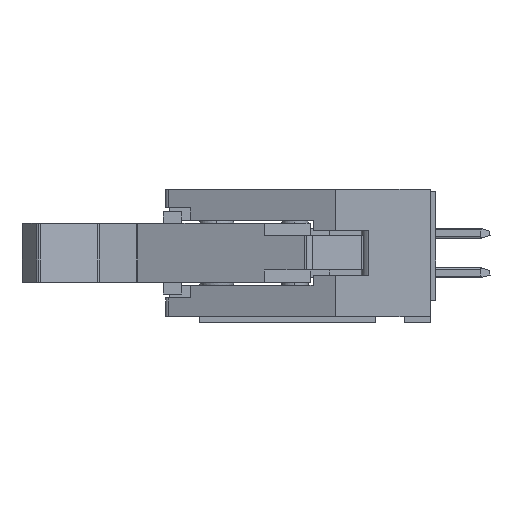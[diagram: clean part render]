
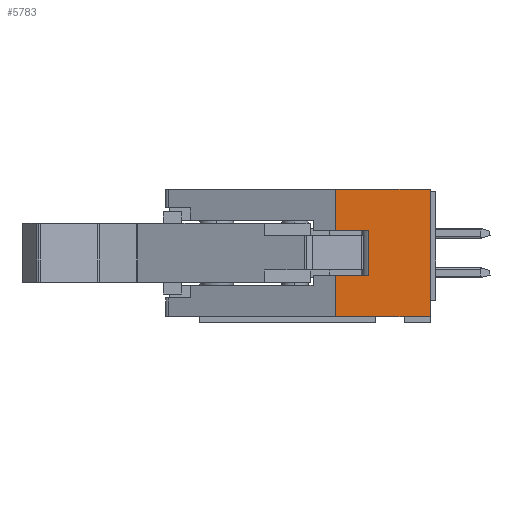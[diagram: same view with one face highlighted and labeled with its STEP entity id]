
A CAD part, left-side view. The second image highlights one B-rep face of the part: STEP entity #5783.
In plain terms, the highlighted planar face has unit normal (-1, 0, 0).
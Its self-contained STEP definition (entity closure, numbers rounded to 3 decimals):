
#913 = VECTOR ( 'NONE', #2409, 1000. ) ;
#987 = VECTOR ( 'NONE', #2710, 1000. ) ;
#1952 = VECTOR ( 'NONE', #17534, 1000. ) ;
#2404 = LINE ( 'NONE', #2407, #913 ) ;
#2407 = CARTESIAN_POINT ( 'NONE',  ( -23.72, -9.26, 0.2 ) ) ;
#2409 = DIRECTION ( 'NONE',  ( 0., 0., 1. ) ) ;
#2708 = LINE ( 'NONE', #2709, #987 ) ;
#2709 = CARTESIAN_POINT ( 'NONE',  ( -23.72, -12.31, 1.625 ) ) ;
#2710 = DIRECTION ( 'NONE',  ( 0., 1., 0. ) ) ;
#3384 = ORIENTED_EDGE ( 'NONE', *, *, #46035, .F. ) ;
#3385 = ORIENTED_EDGE ( 'NONE', *, *, #22553, .F. ) ;
#3386 = ORIENTED_EDGE ( 'NONE', *, *, #22554, .F. ) ;
#3387 = ORIENTED_EDGE ( 'NONE', *, *, #22450, .F. ) ;
#3389 = ORIENTED_EDGE ( 'NONE', *, *, #45330, .F. ) ;
#3391 = ORIENTED_EDGE ( 'NONE', *, *, #45374, .F. ) ;
#3393 = ORIENTED_EDGE ( 'NONE', *, *, #6606, .F. ) ;
#3395 = ORIENTED_EDGE ( 'NONE', *, *, #6676, .F. ) ;
#5783 = ADVANCED_FACE ( 'NONE', ( #36753 ), #36738, .F. ) ;
#6606 = EDGE_CURVE ( 'NONE', #46378, #46369, #27893, .T. ) ;
#6676 = EDGE_CURVE ( 'NONE', #41581, #46378, #6823, .T. ) ;
#6819 = CARTESIAN_POINT ( 'NONE',  ( -23.72, -12.31, -1.225 ) ) ;
#6823 = LINE ( 'NONE', #6819, #23709 ) ;
#6827 = DIRECTION ( 'NONE',  ( 0., -1., 0. ) ) ;
#17532 = LINE ( 'NONE', #17533, #1952 ) ;
#17533 = CARTESIAN_POINT ( 'NONE',  ( -23.72, -9.26, 0.2 ) ) ;
#17534 = DIRECTION ( 'NONE',  ( 0., 0., 1. ) ) ;
#17782 = CARTESIAN_POINT ( 'NONE',  ( -23.72, -11.41, 1.625 ) ) ;
#17791 = CARTESIAN_POINT ( 'NONE',  ( -23.72, -11.41, -1.225 ) ) ;
#18986 = CARTESIAN_POINT ( 'NONE',  ( -23.72, -15.36, 4.3 ) ) ;
#19102 = CARTESIAN_POINT ( 'NONE',  ( -23.72, -9.26, -1.225 ) ) ;
#19122 = CARTESIAN_POINT ( 'NONE',  ( -23.72, -9.26, 4.3 ) ) ;
#19163 = CARTESIAN_POINT ( 'NONE',  ( -23.72, -15.36, -3.9 ) ) ;
#19348 = CARTESIAN_POINT ( 'NONE',  ( -23.72, -9.26, -3.9 ) ) ;
#19404 = CARTESIAN_POINT ( 'NONE',  ( -23.72, -9.26, 1.625 ) ) ;
#22450 = EDGE_CURVE ( 'NONE', #41601, #41447, #40325, .T. ) ;
#22553 = EDGE_CURVE ( 'NONE', #41649, #41814, #40712, .T. ) ;
#22554 = EDGE_CURVE ( 'NONE', #41447, #41649, #40722, .T. ) ;
#23477 = VECTOR ( 'NONE', #27915, 1000. ) ;
#23709 = VECTOR ( 'NONE', #6827, 1000. ) ;
#24782 = VECTOR ( 'NONE', #40327, 1000. ) ;
#25099 = VECTOR ( 'NONE', #40721, 1000. ) ;
#25101 = VECTOR ( 'NONE', #40724, 1000. ) ;
#27893 = LINE ( 'NONE', #27911, #23477 ) ;
#27911 = CARTESIAN_POINT ( 'NONE',  ( -23.72, -11.41, 0.2 ) ) ;
#27915 = DIRECTION ( 'NONE',  ( 0., 0., 1. ) ) ;
#36738 = PLANE ( 'NONE',  #44947 ) ;
#36753 = FACE_OUTER_BOUND ( 'NONE', #46317, .T. ) ;
#36763 = CARTESIAN_POINT ( 'NONE',  ( -23.72, -15.36, -3.9 ) ) ;
#36764 = DIRECTION ( 'NONE',  ( 1., 0., 0. ) ) ;
#36765 = DIRECTION ( 'NONE',  ( 0., 1., 0. ) ) ;
#40325 = LINE ( 'NONE', #40326, #24782 ) ;
#40326 = CARTESIAN_POINT ( 'NONE',  ( -23.72, -6.835, 4.3 ) ) ;
#40327 = DIRECTION ( 'NONE',  ( 0., -1., 0. ) ) ;
#40682 = CARTESIAN_POINT ( 'NONE',  ( -23.72, -12.31, -3.9 ) ) ;
#40712 = LINE ( 'NONE', #40682, #25099 ) ;
#40721 = DIRECTION ( 'NONE',  ( 0., 1., 0. ) ) ;
#40722 = LINE ( 'NONE', #40723, #25101 ) ;
#40723 = CARTESIAN_POINT ( 'NONE',  ( -23.72, -15.36, 0. ) ) ;
#40724 = DIRECTION ( 'NONE',  ( 0., 0., -1. ) ) ;
#41447 = VERTEX_POINT ( 'NONE', #18986 ) ;
#41581 = VERTEX_POINT ( 'NONE', #19102 ) ;
#41601 = VERTEX_POINT ( 'NONE', #19122 ) ;
#41649 = VERTEX_POINT ( 'NONE', #19163 ) ;
#41814 = VERTEX_POINT ( 'NONE', #19348 ) ;
#41874 = VERTEX_POINT ( 'NONE', #19404 ) ;
#44947 = AXIS2_PLACEMENT_3D ( 'NONE', #36763, #36764, #36765 ) ;
#45330 = EDGE_CURVE ( 'NONE', #41874, #41601, #2404, .T. ) ;
#45374 = EDGE_CURVE ( 'NONE', #46369, #41874, #2708, .T. ) ;
#46035 = EDGE_CURVE ( 'NONE', #41814, #41581, #17532, .T. ) ;
#46317 = EDGE_LOOP ( 'NONE', ( #3384, #3385, #3386, #3387, #3389, #3391, #3393, #3395 ) ) ;
#46369 = VERTEX_POINT ( 'NONE', #17782 ) ;
#46378 = VERTEX_POINT ( 'NONE', #17791 ) ;
